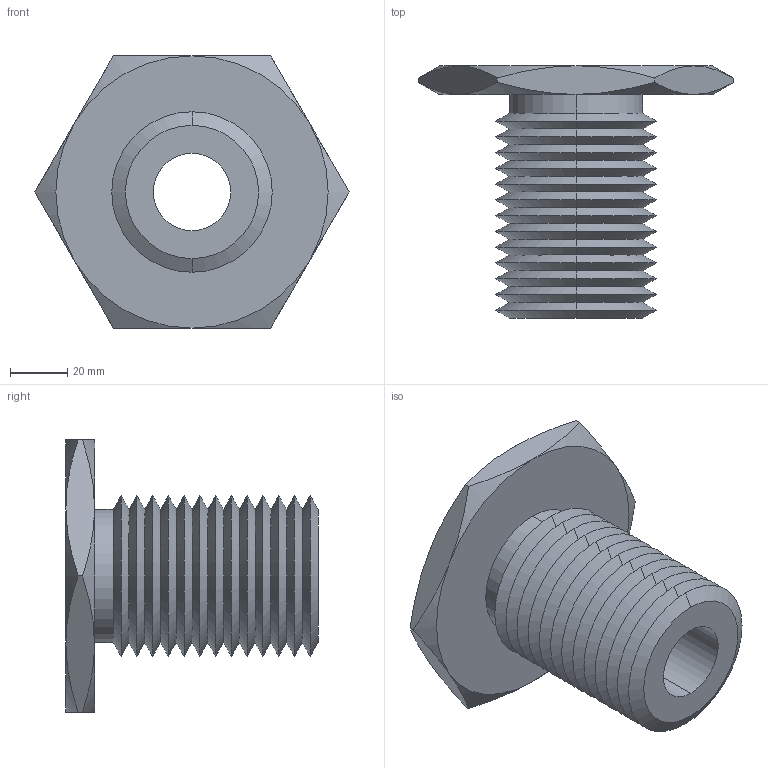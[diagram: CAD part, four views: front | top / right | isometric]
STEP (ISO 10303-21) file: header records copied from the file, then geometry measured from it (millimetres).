
FILE_DESCRIPTION (( 'STEP AP203' ), '1' );
FILE_NAME ('63302.W0056_M27x3.step', '2013-12-08T11:21:31', ( 'User' ), ( '' ), 'SwSTEP 2.0', 'SolidWorks 2009', '' );
FILE_SCHEMA (( 'CONFIG_CONTROL_DESIGN' ));
Length unit declared in the file: millimetre
Products named in the file (1): 63302.W0056_M27x3
Bounding box: 109.7 x 88 x 95 mm (x, y, z)
Volume: 184375 mm3; surface area: 48339 mm2
Topology: 1 solids, 1 shells, 79 faces, 162 edges, 86 vertices
Faces by surface type: cone 66, plane 9, cylinder 4
Entity records: 2271 total; most frequent: CARTESIAN_POINT 544, DIRECTION 372, ORIENTED_EDGE 324, EDGE_CURVE 162, AXIS2_PLACEMENT_3D 154, VERTEX_POINT 86, EDGE_LOOP 82, ADVANCED_FACE 79
